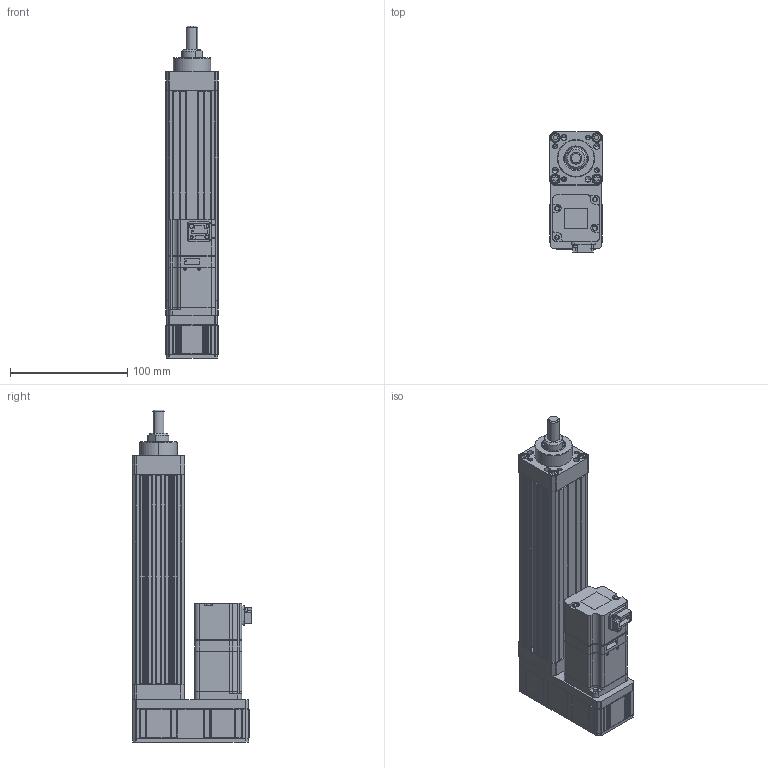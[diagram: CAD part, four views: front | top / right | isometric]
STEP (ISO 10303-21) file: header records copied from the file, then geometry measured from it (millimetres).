
FILE_DESCRIPTION (( 'STEP AP203' ), '1' );
FILE_NAME ('ANS045-P100-05(10)-W10-M.STEP', '2019-02-14T02:56:01', ( 'user' ), ( '' ), 'SwSTEP 2.0', 'SolidWorks 2013', '' );
FILE_SCHEMA (( 'CONFIG_CONTROL_DESIGN' ));
Length unit declared in the file: millimetre
Products named in the file (4): ANS045 P100 VER2; ANS045 ROD ST100 M; SGMJV_01A_A21; ANS045-P100-05(10)-W10-M
Assembly tree (3 placements, depth 2):
  ANS045-P100-05(10)-W10-M
    ANS045 P100 VER2
    ANS045 ROD ST100 M
    SGMJV_01A_A21
Bounding box: 45 x 102.3 x 283.5 mm (x, y, z)
Volume: 480070.5 mm3; surface area: 149607.5 mm2
Topology: 3 solids, 11 shells, 1060 faces, 2747 edges, 1750 vertices
Faces by surface type: plane 607, cylinder 355, cone 96, bspline 2
Entity records: 32395 total; most frequent: CARTESIAN_POINT 6241, ORIENTED_EDGE 5462, DIRECTION 5267, EDGE_CURVE 2731, LINE 1891, VECTOR 1891, VERTEX_POINT 1750, AXIS2_PLACEMENT_3D 1688
